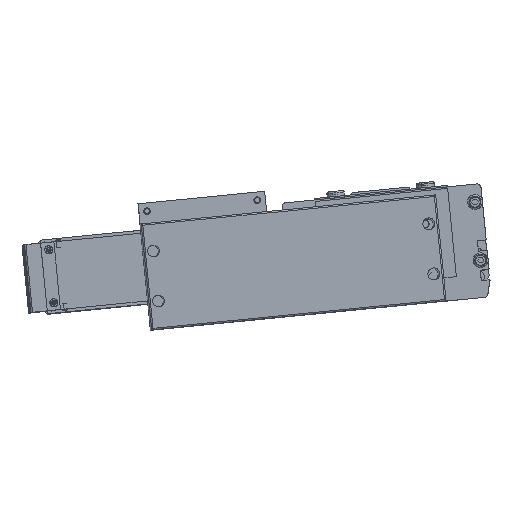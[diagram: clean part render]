
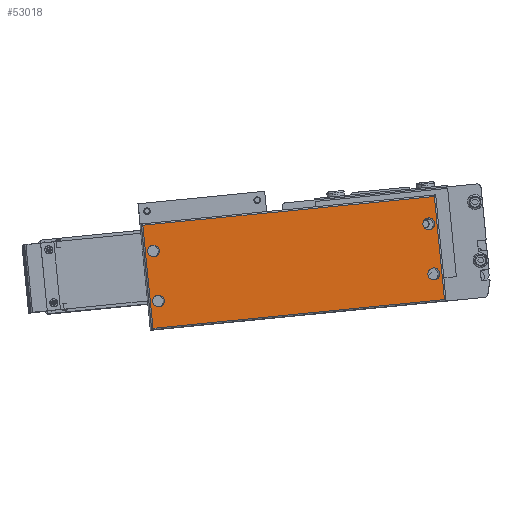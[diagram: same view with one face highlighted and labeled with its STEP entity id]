
A CAD part, top view. The second image highlights one B-rep face of the part: STEP entity #53018.
In plain terms, the highlighted planar face has unit normal (0.017, 0.003, 1) as drawn and (0, 0, 1) by its records, which use the part's own axes.
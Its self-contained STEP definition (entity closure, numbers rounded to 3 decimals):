
#10059 = FACE_BOUND ( 'NONE', #53033, .T. ) ;
#10061 = PLANE ( 'NONE',  #10254 ) ;
#10079 = DIRECTION ( 'NONE',  ( 0., 0., 1. ) ) ;
#10081 = CARTESIAN_POINT ( 'NONE',  ( -164.25, 0., 44. ) ) ;
#10088 = FACE_BOUND ( 'NONE', #53009, .T. ) ;
#10100 = DIRECTION ( 'NONE',  ( 1., 0., 0. ) ) ;
#10101 = DIRECTION ( 'NONE',  ( 0., 0., 1. ) ) ;
#10102 = CARTESIAN_POINT ( 'NONE',  ( 29.25, 19., 44. ) ) ;
#10103 = AXIS2_PLACEMENT_3D ( 'NONE', #10102, #10101, #10100 ) ;
#10105 = AXIS2_PLACEMENT_3D ( 'NONE', #10200, #10197, #10193 ) ;
#10107 = FACE_OUTER_BOUND ( 'NONE', #53022, .T. ) ;
#10143 = CIRCLE ( 'NONE', #10103, 4. ) ;
#10193 = DIRECTION ( 'NONE',  ( 1., 0., 0. ) ) ;
#10197 = DIRECTION ( 'NONE',  ( 0., 0., 1. ) ) ;
#10200 = CARTESIAN_POINT ( 'NONE',  ( -157.75, 19., 44. ) ) ;
#10227 = DIRECTION ( 'NONE',  ( 1., 0., 0. ) ) ;
#10229 = CIRCLE ( 'NONE', #10105, 4. ) ;
#10251 = FACE_BOUND ( 'NONE', #53029, .T. ) ;
#10254 = AXIS2_PLACEMENT_3D ( 'NONE', #10081, #10079, #10227 ) ;
#10257 = FACE_BOUND ( 'NONE', #53038, .T. ) ;
#10279 = DIRECTION ( 'NONE',  ( 1., 0., 0. ) ) ;
#10281 = DIRECTION ( 'NONE',  ( 0., 0., 1. ) ) ;
#10285 = AXIS2_PLACEMENT_3D ( 'NONE', #10354, #10281, #10279 ) ;
#10295 = DIRECTION ( 'NONE',  ( 1., 0., 0. ) ) ;
#10296 = VECTOR ( 'NONE', #10295, 1000. ) ;
#10299 = CARTESIAN_POINT ( 'NONE',  ( 35.75, 1., 44. ) ) ;
#10327 = CARTESIAN_POINT ( 'NONE',  ( 34.75, 1., 44. ) ) ;
#10334 = CARTESIAN_POINT ( 'NONE',  ( -163.25, 1., 44. ) ) ;
#10335 = CIRCLE ( 'NONE', #10285, 4. ) ;
#10339 = LINE ( 'NONE', #10299, #10296 ) ;
#10354 = CARTESIAN_POINT ( 'NONE',  ( 29.25, 53., 44. ) ) ;
#10394 = CIRCLE ( 'NONE', #10523, 4. ) ;
#10478 = CARTESIAN_POINT ( 'NONE',  ( -164.25, 71., 44. ) ) ;
#10480 = LINE ( 'NONE', #10478, #10628 ) ;
#10519 = DIRECTION ( 'NONE',  ( 1., 0., 0. ) ) ;
#10521 = DIRECTION ( 'NONE',  ( 0., 0., 1. ) ) ;
#10522 = CARTESIAN_POINT ( 'NONE',  ( -157.75, 53., 44. ) ) ;
#10523 = AXIS2_PLACEMENT_3D ( 'NONE', #10522, #10521, #10519 ) ;
#10626 = DIRECTION ( 'NONE',  ( -1., 0., 0. ) ) ;
#10628 = VECTOR ( 'NONE', #10626, 1000. ) ;
#10649 = VECTOR ( 'NONE', #10662, 1000. ) ;
#10662 = DIRECTION ( 'NONE',  ( 0., -1., 0. ) ) ;
#10663 = CARTESIAN_POINT ( 'NONE',  ( -163.25, 0., 44. ) ) ;
#10672 = CARTESIAN_POINT ( 'NONE',  ( 34.75, 71., 44. ) ) ;
#10691 = LINE ( 'NONE', #10663, #10649 ) ;
#10708 = DIRECTION ( 'NONE',  ( 0., 1., 0. ) ) ;
#10709 = CARTESIAN_POINT ( 'NONE',  ( 34.75, 72., 44. ) ) ;
#10766 = LINE ( 'NONE', #10709, #10903 ) ;
#10801 = CARTESIAN_POINT ( 'NONE',  ( -163.25, 71., 44. ) ) ;
#10903 = VECTOR ( 'NONE', #10708, 1000. ) ;
#37069 = VERTEX_POINT ( 'NONE', #38241 ) ;
#38241 = CARTESIAN_POINT ( 'NONE',  ( -161.75, 53., 44. ) ) ;
#38246 = CIRCLE ( 'NONE', #38329, 4. ) ;
#38278 = CARTESIAN_POINT ( 'NONE',  ( 25.25, 53., 44. ) ) ;
#38281 = CARTESIAN_POINT ( 'NONE',  ( -153.75, 19., 44. ) ) ;
#38305 = AXIS2_PLACEMENT_3D ( 'NONE', #38311, #38315, #38371 ) ;
#38311 = CARTESIAN_POINT ( 'NONE',  ( -157.75, 53., 44. ) ) ;
#38315 = DIRECTION ( 'NONE',  ( 0., 0., 1. ) ) ;
#38320 = CIRCLE ( 'NONE', #38305, 4. ) ;
#38323 = DIRECTION ( 'NONE',  ( 1., 0., 0. ) ) ;
#38324 = DIRECTION ( 'NONE',  ( 0., 0., 1. ) ) ;
#38325 = CARTESIAN_POINT ( 'NONE',  ( -153.75, 53., 44. ) ) ;
#38329 = AXIS2_PLACEMENT_3D ( 'NONE', #38336, #38324, #38323 ) ;
#38336 = CARTESIAN_POINT ( 'NONE',  ( 29.25, 53., 44. ) ) ;
#38370 = CARTESIAN_POINT ( 'NONE',  ( -161.75, 19., 44. ) ) ;
#38371 = DIRECTION ( 'NONE',  ( 1., 0., 0. ) ) ;
#38427 = CARTESIAN_POINT ( 'NONE',  ( 33.25, 53., 44. ) ) ;
#38469 = DIRECTION ( 'NONE',  ( 1., 0., 0. ) ) ;
#38470 = DIRECTION ( 'NONE',  ( 0., 0., 1. ) ) ;
#38471 = CARTESIAN_POINT ( 'NONE',  ( 29.25, 19., 44. ) ) ;
#38472 = AXIS2_PLACEMENT_3D ( 'NONE', #38471, #38518, #38517 ) ;
#38477 = CIRCLE ( 'NONE', #38472, 4. ) ;
#38479 = AXIS2_PLACEMENT_3D ( 'NONE', #38486, #38470, #38469 ) ;
#38483 = CARTESIAN_POINT ( 'NONE',  ( 33.25, 19., 44. ) ) ;
#38486 = CARTESIAN_POINT ( 'NONE',  ( -157.75, 19., 44. ) ) ;
#38489 = CARTESIAN_POINT ( 'NONE',  ( 25.25, 19., 44. ) ) ;
#38490 = CIRCLE ( 'NONE', #38479, 4. ) ;
#38517 = DIRECTION ( 'NONE',  ( 1., 0., 0. ) ) ;
#38518 = DIRECTION ( 'NONE',  ( 0., 0., 1. ) ) ;
#41248 = VERTEX_POINT ( 'NONE', #38281 ) ;
#41264 = EDGE_CURVE ( 'NONE', #41419, #42328, #38246, .T. ) ;
#41271 = VERTEX_POINT ( 'NONE', #38325 ) ;
#41419 = VERTEX_POINT ( 'NONE', #38278 ) ;
#41501 = EDGE_CURVE ( 'NONE', #37069, #41271, #38320, .T. ) ;
#41745 = VERTEX_POINT ( 'NONE', #38370 ) ;
#42328 = VERTEX_POINT ( 'NONE', #38427 ) ;
#42865 = VERTEX_POINT ( 'NONE', #38489 ) ;
#42884 = VERTEX_POINT ( 'NONE', #38483 ) ;
#42889 = EDGE_CURVE ( 'NONE', #41745, #41248, #38490, .T. ) ;
#42893 = EDGE_CURVE ( 'NONE', #42865, #42884, #38477, .T. ) ;
#53002 = ORIENTED_EDGE ( 'NONE', *, *, #42893, .F. ) ;
#53006 = ORIENTED_EDGE ( 'NONE', *, *, #42889, .F. ) ;
#53007 = EDGE_CURVE ( 'NONE', #42884, #42865, #10143, .T. ) ;
#53009 = EDGE_LOOP ( 'NONE', ( #53021, #53052 ) ) ;
#53014 = ORIENTED_EDGE ( 'NONE', *, *, #53076, .F. ) ;
#53018 = ADVANCED_FACE ( 'NONE', ( #10257, #10059, #10251, #10088, #10107 ), #10061, .T. ) ;
#53020 = ORIENTED_EDGE ( 'NONE', *, *, #41501, .F. ) ;
#53021 = ORIENTED_EDGE ( 'NONE', *, *, #53051, .F. ) ;
#53022 = EDGE_LOOP ( 'NONE', ( #53047, #53113, #53088, #53104 ) ) ;
#53026 = EDGE_CURVE ( 'NONE', #41248, #41745, #10229, .T. ) ;
#53029 = EDGE_LOOP ( 'NONE', ( #53039, #53002 ) ) ;
#53033 = EDGE_LOOP ( 'NONE', ( #53092, #53006 ) ) ;
#53038 = EDGE_LOOP ( 'NONE', ( #53014, #53020 ) ) ;
#53039 = ORIENTED_EDGE ( 'NONE', *, *, #53007, .F. ) ;
#53045 = VERTEX_POINT ( 'NONE', #10334 ) ;
#53047 = ORIENTED_EDGE ( 'NONE', *, *, #53050, .T. ) ;
#53048 = VERTEX_POINT ( 'NONE', #10327 ) ;
#53050 = EDGE_CURVE ( 'NONE', #53045, #53048, #10339, .T. ) ;
#53051 = EDGE_CURVE ( 'NONE', #42328, #41419, #10335, .T. ) ;
#53052 = ORIENTED_EDGE ( 'NONE', *, *, #41264, .F. ) ;
#53076 = EDGE_CURVE ( 'NONE', #41271, #37069, #10394, .T. ) ;
#53088 = ORIENTED_EDGE ( 'NONE', *, *, #53090, .T. ) ;
#53090 = EDGE_CURVE ( 'NONE', #53114, #53123, #10480, .T. ) ;
#53092 = ORIENTED_EDGE ( 'NONE', *, *, #53026, .F. ) ;
#53104 = ORIENTED_EDGE ( 'NONE', *, *, #53112, .T. ) ;
#53112 = EDGE_CURVE ( 'NONE', #53123, #53045, #10691, .T. ) ;
#53113 = ORIENTED_EDGE ( 'NONE', *, *, #53127, .T. ) ;
#53114 = VERTEX_POINT ( 'NONE', #10672 ) ;
#53123 = VERTEX_POINT ( 'NONE', #10801 ) ;
#53127 = EDGE_CURVE ( 'NONE', #53048, #53114, #10766, .T. ) ;
